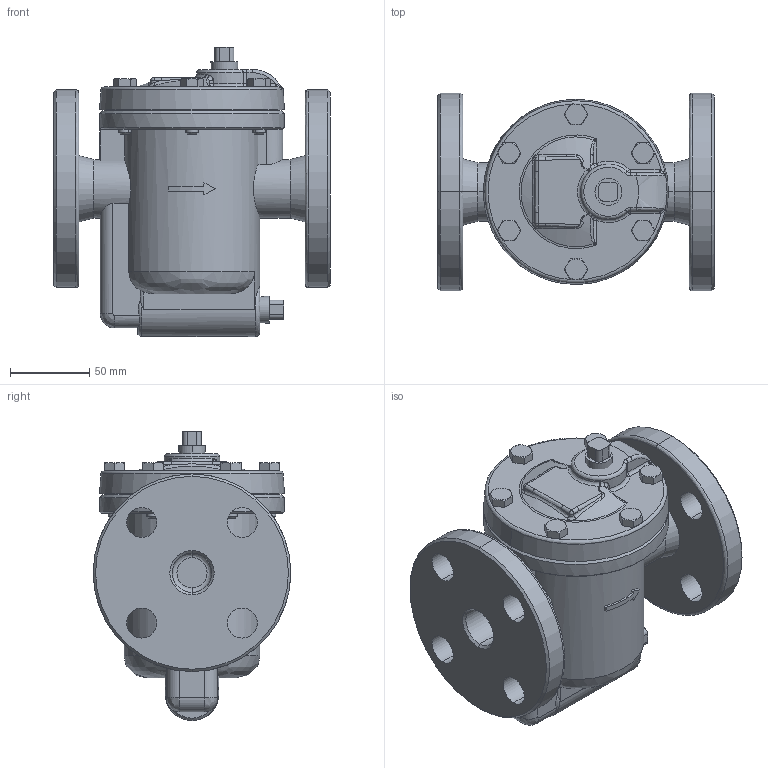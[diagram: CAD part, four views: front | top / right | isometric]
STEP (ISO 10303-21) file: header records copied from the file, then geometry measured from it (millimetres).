
FILE_DESCRIPTION( (''), '2;1');
FILE_NAME ('PC1027.940.1202-05-09 rev00 TB-20F 25A_14303.stp','2025-08-01T10:10:35',(''),(''),'spGate 20.6.3 (****-****-****-****)','','');
FILE_SCHEMA (('AUTOMOTIVE_DESIGN'));
Length unit declared in the file: millimetre
Products named in the file (5): Assembly; TB-20 ふた; CP_''_JIS B 1180 呼び径六角ボルト''_17166; TB-20プラグ3_8(3D）; TB-20F 25A 本体
Assembly tree (10 placements, depth 2):
  Assembly
    TB-20 ふた
    CP_''_JIS B 1180 呼び径六角ボルト''_17166  x6
    TB-20プラグ3_8(3D）  x2
    TB-20F 25A 本体
Bounding box: 175 x 125 x 182.9 mm (x, y, z)
Volume: 1382283.9 mm3; surface area: 174443.2 mm2
Topology: 10 solids, 10 shells, 397 faces, 925 edges, 565 vertices
Faces by surface type: bspline 155, plane 129, cylinder 106, sphere 7
Entity records: 15597 total; most frequent: CARTESIAN_POINT 4713, ORIENTED_EDGE 1278, DIRECTION 1071, COLOUR_RGB 907, PRESENTATION_STYLE_ASSIGNMENT 907, STYLED_ITEM 907, EDGE_CURVE 639, DRAUGHTING_PRE_DEFINED_CURVE_FONT 639
